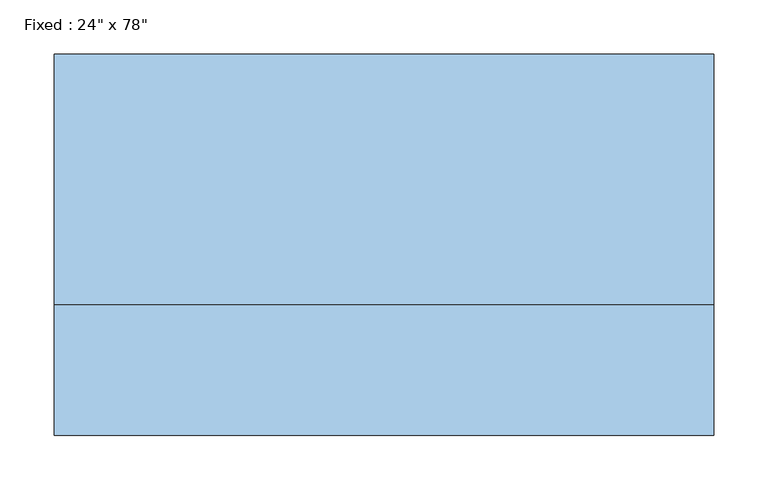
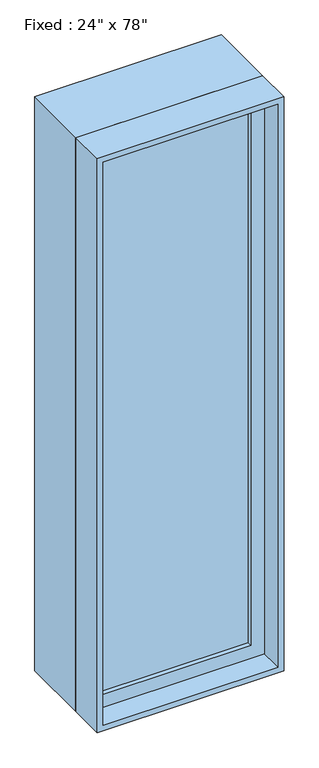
"""IFC4 building model written with IfcOpenShell, lengths in millimetres: window geometry."""

from ifc_helpers import new_model, si_unit, frame, origin, place, context, project, spatial, polyline, outline, extrude, source, transform, mapped, element, save


def window_8c170f25(model_context):
    return source(origin(), model_context, "Body", "SweptSolid", [
        extrude(outline(polyline([(203.2, -71.4375), (203.2, -84.1375), (-279.4, -84.1375), (-279.4, -71.4375), (203.2, -71.4375)])), frame((0.0, 0.0, 368.3), z_axis=(0.0, 0.0, 1.0), x_axis=(1.0, 0.0, 0.0)), (0.0, 0.0, 1.0), 1854.2),
        extrude(outline(polyline([(2266.95, -323.85), (323.85, -323.85), (323.85, 247.65), (2266.95, 247.65), (2266.95, -323.85)]), holes=[polyline([(2222.5, -279.4), (2222.5, 203.2), (368.3, 203.2), (368.3, -279.4), (2222.5, -279.4)])]), frame((0.0, -100.0125, 0.0), z_axis=(0.0, 1.0, 0.0), x_axis=(0.0, 0.0, 1.0)), (0.0, 0.0, 1.0), 44.45),
        extrude(outline(polyline([(2286.0, -342.9), (304.8, -342.9), (304.8, 266.7), (2286.0, 266.7), (2286.0, -342.9)]), holes=[polyline([(2254.25, -311.15), (2254.25, 234.95), (336.55, 234.95), (336.55, -311.15), (2254.25, -311.15)])]), frame((0.0, -55.5625, 0.0), z_axis=(0.0, 1.0, 0.0), x_axis=(0.0, 0.0, 1.0)), (0.0, 0.0, 1.0), 231.775),
        extrude(outline(polyline([(2286.0, 266.7), (2286.0, -342.9), (304.8, -342.9), (304.8, 266.7), (2286.0, 266.7)]), holes=[polyline([(2266.95, 247.65), (323.85, 247.65), (323.85, -323.85), (2266.95, -323.85), (2266.95, 247.65)])]), frame((0.0, -176.2125, 0.0), z_axis=(0.0, 1.0, 0.0), x_axis=(0.0, 0.0, 1.0)), (0.0, 0.0, 1.0), 120.65),
    ])


if __name__ == "__main__":
    model = new_model("IFC4")
    model_context = context("Model", 3, world=origin())
    ifc_project = project(units=[si_unit("LENGTHUNIT", "METRE", prefix="MILLI")], contexts=[model_context])
    site = spatial("IfcSite", under=ifc_project)
    building = spatial("IfcBuilding", under=site)
    placement = place(None, origin())
    window_shape = window_8c170f25(model_context)
    element("IfcWindow", 1, ObjectType="Fixed : 24\" x 78\"", at=placement, inside=building, context=model_context, shape_type="MappedRepresentation", body=[
        mapped(window_shape, transform((0.0, 0.0, 0.0), x_axis=(1.0, 0.0, 0.0), y_axis=(0.0, 1.0, 0.0), z_axis=(0.0, 0.0, 1.0))),
    ])
    save(model, "model.ifc")
